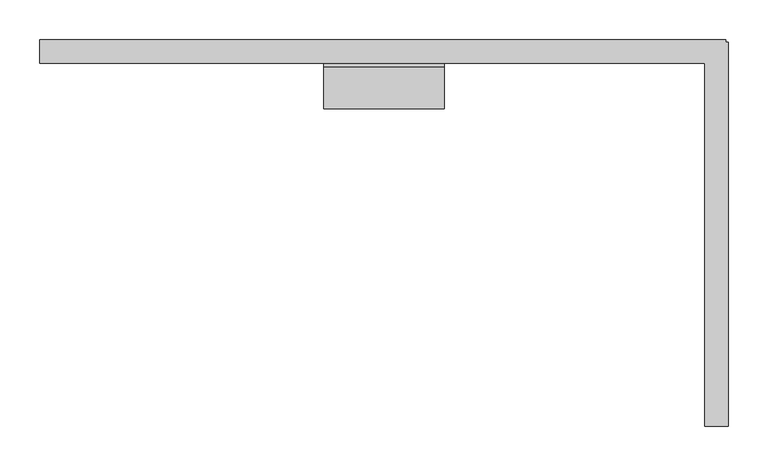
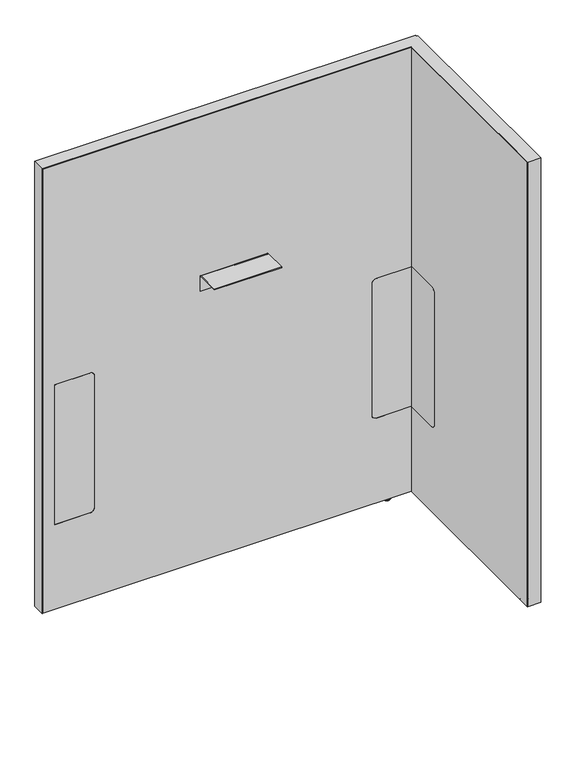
"""IFC4 building model written with IfcOpenShell, lengths in millimetres: furniture geometry, Steelcase - Answer Solution - Boundary Screen - L Return - Single Sided : 42H x 33W."""

from ifc_helpers import new_model, si_unit, point, frame, frame_2d, origin, place, context, project, spatial, polyline, circle_curve, ellipse_curve, trimmed, segment, composite_curve, outline, extrude, faceted_brep, source, transform, mapped, element, save
from ifc_brep_helpers import plane_surface, cylinder_surface, revolved_surface, advanced_brep


def furniture_9d367fec(model_context):
    return source(origin(), model_context, "Body", "SolidModel", [
        extrude(outline(composite_curve([segment(polyline([(-109.3501471, 549.6162029), (-29.0550397, 549.6162029), (-29.0550397, 213.7762137), (-109.3501471, 213.7762137)]), True, "CONTINUOUS"), segment(trimmed(circle_curve(frame_2d((-109.3501471, 223.9362137)), 10.16), [point((-109.3501471, 213.7762137))], [point((-119.5101471, 223.9362137))], False, "CARTESIAN"), True, "CONTINUOUS"), segment(polyline([(-119.5101471, 223.9362137), (-119.5101471, 539.4562029)]), True, "CONTINUOUS"), segment(trimmed(circle_curve(frame_2d((-109.3501471, 539.4562029)), 10.16), [point((-119.5101471, 539.4562029))], [point((-109.3501471, 549.6162029))], False, "CARTESIAN"), True, "CONTINUOUS")], self_intersect=False)), frame((1068.0191891, 0.0, 0.0), z_axis=(1.0, 0.0, 0.0), x_axis=(0.0, 1.0, 0.0)), (0.0, 0.0, 1.0), 0.6401544),
        advanced_brep(
        [(1082.8672074, -448.0136072, 0.0), (1089.8216144, -448.0136072, 0.0), (1075.9128003, -448.0136072, 0.0), (1091.2762685, -448.0136072, 1.2700001), (1074.4581463, -448.0136072, 1.2700001), (1091.2762685, -448.0136072, 2.9673238), (1074.4581463, -448.0136072, 2.9673238), (1092.2427877, -448.0136072, 2.9673238), (1073.491627, -448.0136072, 2.9673238), (1092.2427877, -448.0136072, 9.9059849), (1073.491627, -448.0136072, 9.9059849), (1082.8672074, -448.0136072, 9.9059849)],
        [
            (0, 1),
            (1, 2, circle_curve(frame((1082.8672074, -448.0136072, 0.0), z_axis=(0.0, 0.0, -1.0), x_axis=(1.0, 0.0, 0.0)), 6.9544071)),
            (2, 0),
            (2, 1, circle_curve(frame((1082.8672074, -448.0136072, 0.0), z_axis=(0.0, 0.0, -1.0), x_axis=(1.0, 0.0, 0.0)), 6.9544071)),
            (1, 3, circle_curve(frame((1089.9945484, -448.0136072, 1.2700001), z_axis=(0.0, -1.0, 0.0), x_axis=(0.0, 0.0, 1.0)), 1.2817201)),
            (3, 4, circle_curve(frame((1082.8672074, -448.0136072, 1.2700001), z_axis=(0.0, 0.0, -1.0), x_axis=(1.0, 0.0, 0.0)), 8.4090611)),
            (4, 2, circle_curve(frame((1075.7398663, -448.0136072, 1.2700001), z_axis=(0.0, -1.0, 0.0), x_axis=(0.0, 0.0, 1.0)), 1.2817201)),
            (4, 3, circle_curve(frame((1082.8672074, -448.0136072, 1.2700001), z_axis=(0.0, 0.0, -1.0), x_axis=(1.0, 0.0, 0.0)), 8.4090611)),
            (3, 5),
            (5, 6, circle_curve(frame((1082.8672074, -448.0136072, 2.9673238), z_axis=(0.0, 0.0, -1.0), x_axis=(1.0, 0.0, 0.0)), 8.4090611)),
            (6, 4),
            (6, 5, circle_curve(frame((1082.8672074, -448.0136072, 2.9673238), z_axis=(0.0, 0.0, -1.0), x_axis=(1.0, 0.0, 0.0)), 8.4090611)),
            (5, 7),
            (7, 8, circle_curve(frame((1082.8672074, -448.0136072, 2.9673238), z_axis=(0.0, 0.0, -1.0), x_axis=(1.0, 0.0, 0.0)), 9.3755804)),
            (8, 6),
            (8, 7, circle_curve(frame((1082.8672074, -448.0136072, 2.9673238), z_axis=(0.0, 0.0, -1.0), x_axis=(1.0, 0.0, 0.0)), 9.3755804)),
            (7, 9),
            (9, 10, circle_curve(frame((1082.8672074, -448.0136072, 9.9059849), z_axis=(0.0, 0.0, -1.0), x_axis=(1.0, 0.0, 0.0)), 9.3755804)),
            (10, 8),
            (10, 9, circle_curve(frame((1082.8672074, -448.0136072, 9.9059849), z_axis=(0.0, 0.0, -1.0), x_axis=(1.0, 0.0, 0.0)), 9.3755804)),
            (9, 11),
            (11, 10),
        ],
        [
            plane_surface(frame((1082.8672074, -448.0136072, 0.0), z_axis=(0.0, 0.0, -1.0), x_axis=(1.0, 0.0, 0.0))),
            revolved_surface(trimmed(ellipse_curve(frame((1089.9945484, -448.0136072, 1.2700001), z_axis=(0.0, 1.0, 0.0), x_axis=(0.0, 0.0, 1.0)), 1.2817201, 1.2817201), [point((1091.2762685, -448.0136072, 1.2700001))], [point((1089.8216144, -448.0136072, 0.0))], True, "CARTESIAN"), (1082.8672074, -448.0136072, 9.9059849), (0.0, 0.0, -1.0)),
            cylinder_surface(frame((1082.8672074, -448.0136072, 9.9059849), z_axis=(0.0, 0.0, -1.0), x_axis=(1.0, 0.0, 0.0)), 8.4090611),
            plane_surface(frame((1082.8672074, -448.0136072, 2.9673238), z_axis=(0.0, 0.0, -1.0), x_axis=(1.0, 0.0, 0.0))),
            cylinder_surface(frame((1082.8672074, -448.0136072, 9.9059849), z_axis=(0.0, 0.0, -1.0), x_axis=(1.0, 0.0, 0.0)), 9.3755804),
            plane_surface(frame((1082.8672074, -448.0136072, 9.9059849), z_axis=(0.0, 0.0, 1.0), x_axis=(1.0, 0.0, 0.0))),
        ],
        [
            (0, [[1, 2, 3]]),
            (0, [[-3, 4, -1]]),
            (1, [[-2, 5, 6, 7]]),
            (1, [[-4, -7, 8, -5]]),
            (2, [[-6, 9, 10, 11]]),
            (2, [[-8, -11, 12, -9]]),
            (3, [[-10, 13, 14, 15]]),
            (3, [[-12, -15, 16, -13]]),
            (4, [[-14, 17, 18, 19]]),
            (4, [[-16, -19, 20, -17]]),
            (5, [[-18, 21, 22]]),
            (5, [[-20, -22, -21]]),
        ],
    ),
        faceted_brep([(1094.4531179, 0.0, 1077.722), (1094.4531179, 0.0, 9.9059849), (1093.4621491, 0.0, 9.9059849), (1093.4621491, 0.0, 1076.742118), (230.8097779, 0.0, 1076.742118), (230.8097779, 0.0, 9.9059849), (229.8191891, 0.0, 9.9059849), (229.8191891, 0.0, 1077.722), (229.8191891, -29.6898332, 1077.722), (229.8191891, -29.6898332, 9.9059849), (230.8097779, -29.6898332, 9.9059849), (230.8097779, -29.6898332, 1076.742118), (1068.0191891, -29.6898332, 1076.742118), (1068.0191891, -29.6898332, 1077.722), (1093.4621491, -29.6898332, 1076.742118), (1093.4621491, -29.6898332, 9.9059849), (1094.4531179, -29.6898332, 9.9059849), (1094.4531179, -29.6898332, 1076.742118), (1094.4531179, -3.2625916, 1077.722), (1094.4531179, -3.2625916, 9.9059849), (1094.4531179, -4.252647, 9.9059849), (1094.4531179, -4.252647, 1076.742118), (1097.7152256, -3.2625916, 9.9059849), (1097.7152256, -4.252647, 9.9059849), (1093.4621491, -4.252647, 9.9059849), (1068.0191891, -4.252647, 9.9059849), (1068.0191891, -3.2625916, 9.9059849), (1093.4621491, -3.2625916, 9.9059849), (1068.0191891, -486.8898332, 1077.722), (1097.7152256, -486.8898332, 1077.722), (1097.7152256, -3.2625916, 1077.722), (1093.4621491, -3.2625916, 1076.742118), (1093.4621491, -4.252647, 1076.742118), (1068.0191891, -3.2625916, 1076.742118), (1068.0191891, -4.252647, 1076.742118), (1097.7152256, -4.252647, 1076.742118), (1097.7152256, -485.899196, 1076.742118), (1068.0191891, -485.899196, 1076.742118), (1068.0191891, -485.899196, 9.9059849), (1068.0191891, -486.8898332, 9.9059849), (1097.7152256, -486.8898332, 9.9059849), (1097.7152256, -485.899196, 9.9059849)], [[[0, 1, 2, 3, 4, 5, 6, 7]], [[8, 9, 10, 11, 12, 13]], [[14, 15, 16, 17]], [[1, 0, 18, 19]], [[17, 16, 20, 21]], [[2, 1, 19, 22, 23, 20, 16, 15, 24, 25, 26, 27]], [[7, 6, 9, 8]], [[0, 7, 8, 13, 28, 29, 30, 18]], [[3, 2, 27, 31]], [[15, 14, 32, 24]], [[4, 3, 31, 33, 34, 32, 14, 17, 21, 35, 36, 37, 12, 11]], [[5, 4, 11, 10]], [[6, 5, 10, 9]], [[26, 25, 34, 33]], [[37, 38, 39, 28, 13, 12]], [[29, 40, 41, 36, 35, 23, 22, 30]], [[27, 26, 33, 31]], [[30, 22, 19, 18]], [[34, 25, 24, 32]], [[23, 35, 21, 20]], [[38, 37, 36, 41]], [[39, 38, 41, 40]], [[28, 39, 40, 29]]]),
        extrude(outline(composite_curve([segment(polyline([(-86.8398151, 696.4680019), (-86.8398151, 698.5), (-34.9450855, 698.5)]), True, "CONTINUOUS"), segment(trimmed(circle_curve(frame_2d((-34.9450855, 693.2447477)), 5.2552523), [point((-34.9450855, 698.5))], [point((-29.6898332, 693.2447477))], False, "CARTESIAN"), True, "CONTINUOUS"), segment(polyline([(-29.6898332, 693.2447477), (-29.6898332, 660.4), (-31.7218162, 660.4), (-31.7218162, 693.0058743)]), True, "CONTINUOUS"), segment(trimmed(circle_curve(frame_2d((-35.1839438, 693.0058743)), 3.4621276), [point((-31.7218162, 693.0058743))], [point((-35.1839438, 696.4680019))], True, "CARTESIAN"), True, "CONTINUOUS"), segment(polyline([(-35.1839438, 696.4680019), (-86.8398151, 696.4680019)]), True, "CONTINUOUS")], self_intersect=False)), frame((587.5685899, 0.0, 0.0), z_axis=(1.0, 0.0, 0.0), x_axis=(0.0, 1.0, 0.0)), (0.0, 0.0, 1.0), 152.4000969),
        advanced_brep(
        [(1020.5246853, -23.7588726, 9.9059849), (1020.5246853, -5.9309607, 9.9059849), (1020.5246853, -14.8449166, 9.9059849), (1020.5246853, -23.7588726, 2.9673238), (1020.5246853, -5.9309607, 2.9673238), (1020.5246853, -22.7915354, 2.9673238), (1020.5246853, -6.8982978, 2.9673238), (1020.5246853, -22.7915354, 1.6569081), (1020.5246853, -6.8982978, 1.6569081), (1020.5246853, -21.1346274, 0.0), (1020.5246853, -8.5552059, 0.0), (1020.5246853, -14.8449166, 0.0)],
        [
            (0, 1, circle_curve(frame((1020.5246853, -14.8449166, 9.9059849), z_axis=(0.0, 0.0, 1.0), x_axis=(0.0, 1.0, 0.0)), 8.913956)),
            (1, 2),
            (2, 0),
            (1, 0, circle_curve(frame((1020.5246853, -14.8449166, 9.9059849), z_axis=(0.0, 0.0, 1.0), x_axis=(0.0, 1.0, 0.0)), 8.913956)),
            (3, 4, circle_curve(frame((1020.5246853, -14.8449166, 2.9673238), z_axis=(0.0, 0.0, 1.0), x_axis=(0.0, 1.0, 0.0)), 8.913956)),
            (4, 1),
            (0, 3),
            (4, 3, circle_curve(frame((1020.5246853, -14.8449166, 2.9673238), z_axis=(0.0, 0.0, 1.0), x_axis=(0.0, 1.0, 0.0)), 8.913956)),
            (5, 6, circle_curve(frame((1020.5246853, -14.8449166, 2.9673238), z_axis=(0.0, 0.0, 1.0), x_axis=(0.0, 1.0, 0.0)), 7.9466188)),
            (6, 4),
            (3, 5),
            (6, 5, circle_curve(frame((1020.5246853, -14.8449166, 2.9673238), z_axis=(0.0, 0.0, 1.0), x_axis=(0.0, 1.0, 0.0)), 7.9466188)),
            (7, 8, circle_curve(frame((1020.5246853, -14.8449166, 1.6569081), z_axis=(0.0, 0.0, 1.0), x_axis=(0.0, 1.0, 0.0)), 7.9466188)),
            (8, 6),
            (5, 7),
            (8, 7, circle_curve(frame((1020.5246853, -14.8449166, 1.6569081), z_axis=(0.0, 0.0, 1.0), x_axis=(0.0, 1.0, 0.0)), 7.9466188)),
            (9, 10, circle_curve(frame((1020.5246853, -14.8449166, 0.0), z_axis=(0.0, 0.0, 1.0), x_axis=(0.0, 1.0, 0.0)), 6.2897107)),
            (10, 8, circle_curve(frame((1020.5246853, -8.5552059, 1.6569081), z_axis=(1.0, 0.0, 0.0), x_axis=(0.0, 1.0, 0.0)), 1.6569081)),
            (7, 9, circle_curve(frame((1020.5246853, -21.1346274, 1.6569081), z_axis=(1.0, 0.0, 0.0), x_axis=(0.0, -1.0, 0.0)), 1.6569081)),
            (10, 9, circle_curve(frame((1020.5246853, -14.8449166, 0.0), z_axis=(0.0, 0.0, 1.0), x_axis=(0.0, 1.0, 0.0)), 6.2897107)),
            (11, 10),
            (9, 11),
        ],
        [
            plane_surface(frame((1020.5246853, -14.8449166, 9.9059849), z_axis=(0.0, 0.0, 1.0), x_axis=(0.0, 1.0, 0.0))),
            cylinder_surface(frame((1020.5246853, -14.8449166, 9.9059849), z_axis=(0.0, 0.0, -1.0), x_axis=(0.0, 1.0, 0.0)), 8.913956),
            plane_surface(frame((1020.5246853, -14.8449166, 2.9673238), z_axis=(0.0, 0.0, -1.0), x_axis=(0.0, 1.0, 0.0))),
            cylinder_surface(frame((1020.5246853, -14.8449166, 9.9059849), z_axis=(0.0, 0.0, -1.0), x_axis=(0.0, 1.0, 0.0)), 7.9466188),
            revolved_surface(trimmed(ellipse_curve(frame((1020.5246853, -8.5552059, 1.6569081), z_axis=(-1.0, 0.0, 0.0), x_axis=(0.0, 1.0, 0.0)), 1.6569081, 1.6569081), [point((1020.5246853, -6.8982978, 1.6569081))], [point((1020.5246853, -8.5552059, 0.0))], True, "CARTESIAN"), (1020.5246853, -14.8449166, 9.9059849), (0.0, 0.0, -1.0)),
            plane_surface(frame((1020.5246853, -14.8449166, 0.0), z_axis=(0.0, 0.0, -1.0), x_axis=(0.0, 1.0, 0.0))),
        ],
        [
            (0, [[1, 2, 3]]),
            (0, [[4, -3, -2]]),
            (1, [[5, 6, -1, 7]]),
            (1, [[8, -7, -4, -6]]),
            (2, [[9, 10, -5, 11]]),
            (2, [[12, -11, -8, -10]]),
            (3, [[13, 14, -9, 15]]),
            (3, [[16, -15, -12, -14]]),
            (4, [[17, 18, -13, 19]]),
            (4, [[20, -19, -16, -18]]),
            (5, [[21, -17, 22]]),
            (5, [[-22, -20, -21]]),
        ],
    ),
        advanced_brep(
        [(230.8097779, 0.0, 1076.742118), (1093.4621491, 0.0, 1076.742118), (1093.4621491, 0.0, 9.9059849), (230.8097779, 0.0, 9.9059849), (347.9483813, -29.0550397, 539.4562029), (337.7883813, -29.0550397, 549.6162029), (258.1344836, -29.0550397, 549.6162029), (258.1344836, -29.0550397, 213.7762137), (337.7883813, -29.0550397, 213.7762137), (347.9483813, -29.0550397, 223.9362137), (1068.6593435, -29.0550397, 213.7762137), (1068.6593435, -29.0550397, 549.6162029), (988.1109268, -29.0550397, 549.6162029), (977.9509268, -29.0550397, 539.4562029), (977.9509268, -29.0550397, 223.9362137), (988.1109268, -29.0550397, 213.7762137), (230.8097779, -29.6898332, 1076.742118), (230.8097779, -29.6898332, 9.9059849), (1068.0191891, -29.6898332, 9.9059849), (1068.0191891, -29.6898332, 213.7762137), (988.1109268, -29.6898332, 213.7762137), (977.9509268, -29.6898332, 223.9362137), (977.9509268, -29.6898332, 539.4562029), (988.1109268, -29.6898332, 549.6162029), (1068.0191891, -29.6898332, 549.6162029), (1068.0191891, -29.6898332, 1076.742118), (337.7883813, -29.6898332, 549.6162029), (347.9483813, -29.6898332, 539.4562029), (347.9483813, -29.6898332, 223.9362137), (337.7883813, -29.6898332, 213.7762137), (258.1344836, -29.6898332, 213.7762137), (258.1344836, -29.6898332, 549.6162029), (1093.4621491, -4.252647, 9.9059849), (1097.7152256, -4.252647, 9.9059849), (1097.7152256, -485.899196, 9.9059849), (1068.0191891, -485.899196, 9.9059849), (1093.4621491, -4.252647, 1076.742118), (1068.0191891, -485.899196, 1076.742118), (1097.7152256, -485.899196, 1076.742118), (1097.7152256, -4.252647, 1076.742118), (1068.6593435, -109.3501471, 549.6162029), (1068.0191891, -109.3501471, 549.6162029), (1068.6593435, -109.3501471, 213.7762137), (1068.6593435, -119.5101471, 223.9362137), (1068.6593435, -119.5101471, 539.4562029), (1068.0191891, -109.3501471, 213.7762137), (1068.0191891, -119.5101471, 539.4562029), (1068.0191891, -119.5101471, 223.9362137)],
        [
            (0, 1),
            (1, 2),
            (2, 3),
            (3, 0),
            (4, 5, circle_curve(frame((337.7883813, -29.0550397, 539.4562029), z_axis=(0.0, -1.0, 0.0), x_axis=(0.0, 0.0, 1.0)), 10.16)),
            (5, 6),
            (6, 7),
            (7, 8),
            (8, 9, circle_curve(frame((337.7883813, -29.0550397, 223.9362137), z_axis=(0.0, -1.0, 0.0), x_axis=(0.0, 0.0, 1.0)), 10.16)),
            (9, 4),
            (10, 11),
            (11, 12),
            (12, 13, circle_curve(frame((988.1109268, -29.0550397, 539.4562029), z_axis=(0.0, -1.0, 0.0), x_axis=(0.0, 0.0, 1.0)), 10.16)),
            (13, 14),
            (14, 15, circle_curve(frame((988.1109268, -29.0550397, 223.9362137), z_axis=(0.0, -1.0, 0.0), x_axis=(0.0, 0.0, 1.0)), 10.16)),
            (15, 10),
            (16, 17),
            (17, 18),
            (18, 19),
            (19, 20),
            (20, 21, circle_curve(frame((988.1109268, -29.6898332, 223.9362137), z_axis=(0.0, 1.0, 0.0), x_axis=(0.0, 0.0, 1.0)), 10.16)),
            (21, 22),
            (22, 23, circle_curve(frame((988.1109268, -29.6898332, 539.4562029), z_axis=(0.0, 1.0, 0.0), x_axis=(0.0, 0.0, 1.0)), 10.16)),
            (23, 24),
            (24, 25),
            (25, 16),
            (26, 27, circle_curve(frame((337.7883813, -29.6898332, 539.4562029), z_axis=(0.0, 1.0, 0.0), x_axis=(0.0, 0.0, 1.0)), 10.16)),
            (27, 28),
            (28, 29, circle_curve(frame((337.7883813, -29.6898332, 223.9362137), z_axis=(0.0, 1.0, 0.0), x_axis=(0.0, 0.0, 1.0)), 10.16)),
            (29, 30),
            (30, 31),
            (31, 26),
            (16, 0),
            (3, 17),
            (2, 32),
            (32, 33),
            (33, 34),
            (34, 35),
            (35, 18),
            (1, 36),
            (36, 32),
            (25, 37),
            (37, 38),
            (38, 39),
            (39, 36),
            (26, 5),
            (4, 27),
            (9, 28),
            (8, 29),
            (7, 30),
            (6, 31),
            (11, 40),
            (40, 41),
            (41, 24),
            (23, 12),
            (42, 43, circle_curve(frame((1068.6593435, -109.3501471, 223.9362137), z_axis=(-1.0, 0.0, 0.0), x_axis=(0.0, 1.0, 0.0)), 10.16)),
            (43, 44),
            (44, 40, circle_curve(frame((1068.6593435, -109.3501471, 539.4562029), z_axis=(-1.0, 0.0, 0.0), x_axis=(0.0, 1.0, 0.0)), 10.16)),
            (10, 42),
            (15, 20),
            (19, 45),
            (45, 42),
            (14, 21),
            (13, 22),
            (35, 37),
            (41, 46, circle_curve(frame((1068.0191891, -109.3501471, 539.4562029), z_axis=(1.0, 0.0, 0.0), x_axis=(0.0, 1.0, 0.0)), 10.16)),
            (46, 47),
            (47, 45, circle_curve(frame((1068.0191891, -109.3501471, 223.9362137), z_axis=(1.0, 0.0, 0.0), x_axis=(0.0, 1.0, 0.0)), 10.16)),
            (38, 34),
            (33, 39),
            (44, 46),
            (43, 47),
        ],
        [
            plane_surface(frame((347.9483813, 0.0, 549.6162029), z_axis=(0.0, 1.0, 0.0), x_axis=(0.0, 0.0, -1.0))),
            plane_surface(frame((347.9483813, -29.0550397, 549.6162029), z_axis=(0.0, -1.0, 0.0), x_axis=(0.0, 0.0, 1.0))),
            plane_surface(frame((1093.4621491, -29.6898332, 1076.742118), z_axis=(0.0, -1.0, 0.0), x_axis=(-1.0, 0.0, 0.0))),
            plane_surface(frame((230.8097779, 0.0, 9.9059849), z_axis=(-1.0, 0.0, 0.0), x_axis=(0.0, -1.0, 0.0))),
            plane_surface(frame((1093.4621491, 0.0, 9.9059849), z_axis=(0.0, 0.0, -1.0), x_axis=(0.0, -1.0, 0.0))),
            plane_surface(frame((1093.4621491, 0.0, 1076.742118), z_axis=(1.0, 0.0, 0.0), x_axis=(0.0, -1.0, 0.0))),
            plane_surface(frame((230.8097779, 0.0, 1076.742118), z_axis=(0.0, 0.0, 1.0), x_axis=(0.0, -1.0, 0.0))),
            revolved_surface(polyline([(337.7883813, -29.6898332, 549.6162029), (337.7883813, -29.0550397, 549.6162029)]), (337.7883813, -29.6898332, 539.4562029), (0.0, -1.0, 0.0)),
            plane_surface(frame((347.9483813, 0.0, 223.9362137), z_axis=(-1.0, 0.0, 0.0), x_axis=(0.0, -1.0, 0.0))),
            revolved_surface(polyline([(337.7883813, -29.6898332, 234.0962137), (337.7883813, -29.0550397, 234.0962137)]), (337.7883813, -29.6898332, 223.9362137), (0.0, -1.0, 0.0)),
            plane_surface(frame((258.1344836, 0.0, 213.7762137), z_axis=(0.0, 0.0, 1.0), x_axis=(0.0, -1.0, 0.0))),
            plane_surface(frame((258.1344836, 0.0, 549.6162029), z_axis=(1.0, 0.0, 0.0), x_axis=(0.0, -1.0, 0.0))),
            plane_surface(frame((337.7883813, 0.0, 549.6162029), z_axis=(0.0, 0.0, -1.0), x_axis=(0.0, -1.0, 0.0))),
            plane_surface(frame((1068.6593435, 0.0, 549.6162029), z_axis=(0.0, 0.0, -1.0), x_axis=(0.0, -1.0, 0.0))),
            plane_surface(frame((1068.6593435, 0.0, 213.7762137), z_axis=(-1.0, 0.0, 0.0), x_axis=(0.0, -1.0, 0.0))),
            plane_surface(frame((988.1109268, 0.0, 213.7762137), z_axis=(0.0, 0.0, 1.0), x_axis=(0.0, -1.0, 0.0))),
            revolved_surface(polyline([(988.1109268, -29.6898332, 234.0962137), (988.1109268, -29.0550397, 234.0962137)]), (988.1109268, -29.6898332, 223.9362137), (0.0, -1.0, 0.0)),
            plane_surface(frame((977.9509268, 0.0, 539.4562029), z_axis=(1.0, 0.0, 0.0), x_axis=(0.0, -1.0, 0.0))),
            revolved_surface(polyline([(988.1109268, -29.6898332, 549.6162029), (988.1109268, -29.0550397, 549.6162029)]), (988.1109268, -29.6898332, 539.4562029), (0.0, -1.0, 0.0)),
            plane_surface(frame((1068.0191891, -485.899196, 1076.742118), z_axis=(-1.0, 0.0, 0.0), x_axis=(0.0, 0.0, 1.0))),
            plane_surface(frame((1097.7152256, -485.899196, 1076.742118), z_axis=(1.0, 0.0, 0.0), x_axis=(0.0, 0.0, -1.0))),
            plane_surface(frame((1097.7152256, -4.252647, 9.9059849), z_axis=(0.0, 1.0, 0.0), x_axis=(-1.0, 0.0, 0.0))),
            plane_surface(frame((1097.7152256, -485.899196, 1076.742118), z_axis=(0.0, -1.0, 0.0), x_axis=(-1.0, 0.0, 0.0))),
            revolved_surface(polyline([(1068.0191891, -99.1901471, 539.4562029), (1068.6593435, -99.1901471, 539.4562029)]), (-340.6902705, -109.3501471, 539.4562029), (-1.0, 0.0, 0.0)),
            plane_surface(frame((1097.7152256, -119.5101471, 223.9362137), z_axis=(0.0, 1.0, 0.0), x_axis=(-1.0, 0.0, 0.0))),
            revolved_surface(polyline([(1068.0191891, -99.1901471, 223.9362137), (1068.6593435, -99.1901471, 223.9362137)]), (-340.6902705, -109.3501471, 223.9362137), (-1.0, 0.0, 0.0)),
        ],
        [
            (0, [[1, 2, 3, 4]]),
            (1, [[5, 6, 7, 8, 9, 10]]),
            (1, [[11, 12, 13, 14, 15, 16]]),
            (2, [[17, 18, 19, 20, 21, 22, 23, 24, 25, 26], [27, 28, 29, 30, 31, 32]]),
            (3, [[-17, 33, -4, 34]]),
            (4, [[-3, 35, 36, 37, 38, 39, -18, -34]]),
            (5, [[-2, 40, 41, -35]]),
            (6, [[-1, -33, -26, 42, 43, 44, 45, -40]]),
            (7, [[-27, 46, -5, 47]]),
            (8, [[-28, -47, -10, 48]]),
            (9, [[-29, -48, -9, 49]]),
            (10, [[-30, -49, -8, 50]]),
            (11, [[-31, -50, -7, 51]]),
            (12, [[-32, -51, -6, -46]]),
            (13, [[52, 53, 54, -24, 55, -12]]),
            (14, [[56, 57, 58, -52, -11, 59]]),
            (15, [[-59, -16, 60, -20, 61, 62]]),
            (16, [[-21, -60, -15, 63]]),
            (17, [[-22, -63, -14, 64]]),
            (18, [[-23, -64, -13, -55]]),
            (19, [[65, -42, -25, -54, 66, 67, 68, -61, -19, -39]]),
            (20, [[69, -37, 70, -44]]),
            (21, [[-70, -36, -41, -45]]),
            (22, [[-65, -38, -69, -43]]),
            (23, [[-66, -53, -58, 71]]),
            (24, [[-67, -71, -57, 72]]),
            (25, [[-68, -72, -56, -62]]),
        ],
    ),
        extrude(outline(composite_curve([segment(polyline([(549.6162029, 337.7883813), (549.6162029, 258.1344836), (213.7762137, 258.1344836), (213.7762137, 337.7883813)]), True, "CONTINUOUS"), segment(trimmed(circle_curve(frame_2d((223.9362137, 337.7883813)), 10.16), [point((213.7762137, 337.7883813))], [point((223.9362137, 347.9483813))], False, "CARTESIAN"), True, "CONTINUOUS"), segment(polyline([(223.9362137, 347.9483813), (539.4562029, 347.9483813)]), True, "CONTINUOUS"), segment(trimmed(circle_curve(frame_2d((539.4562029, 337.7883813)), 10.16), [point((539.4562029, 347.9483813))], [point((549.6162029, 337.7883813))], False, "CARTESIAN"), True, "CONTINUOUS")], self_intersect=False)), frame((0.0, -29.6898332, 0.0), z_axis=(0.0, 1.0, 0.0), x_axis=(0.0, 0.0, 1.0)), (0.0, 0.0, 1.0), 0.6347935),
        extrude(outline(composite_curve([segment(trimmed(circle_curve(frame_2d((539.4562029, 988.1109268)), 10.16), [point((549.6162029, 988.1109268))], [point((539.4562029, 977.9509268))], False, "CARTESIAN"), True, "CONTINUOUS"), segment(polyline([(539.4562029, 977.9509268), (223.9362137, 977.9509268)]), True, "CONTINUOUS"), segment(trimmed(circle_curve(frame_2d((223.9362137, 988.1109268)), 10.16), [point((223.9362137, 977.9509268))], [point((213.7762137, 988.1109268))], False, "CARTESIAN"), True, "CONTINUOUS"), segment(polyline([(213.7762137, 988.1109268), (213.7762137, 1068.0191891), (549.6162029, 1068.0191891), (549.6162029, 988.1109268)]), True, "CONTINUOUS")], self_intersect=False)), frame((0.0, -29.6898332, 0.0), z_axis=(0.0, 1.0, 0.0), x_axis=(0.0, 0.0, 1.0)), (0.0, 0.0, 1.0), 0.6347935),
    ])


if __name__ == "__main__":
    model = new_model("IFC4")
    model_context = context("Model", 3, world=origin())
    ifc_project = project(units=[si_unit("LENGTHUNIT", "METRE", prefix="MILLI")], contexts=[model_context])
    site = spatial("IfcSite", under=ifc_project)
    building = spatial("IfcBuilding", under=site)
    placement = place(None, origin())
    furniture_shape = furniture_9d367fec(model_context)
    element("IfcFurniture", 1, ObjectType="Steelcase - Answer Solution - Boundary Screen - L Return - Single Sided : 42H x 33W", at=placement, inside=building, context=model_context, shape_type="MappedRepresentation", body=[
        mapped(furniture_shape, transform((0.0, 0.0, 0.0), x_axis=(1.0, 0.0, 0.0), y_axis=(0.0, 1.0, 0.0), z_axis=(0.0, 0.0, 1.0))),
    ])
    save(model, "model.ifc")
